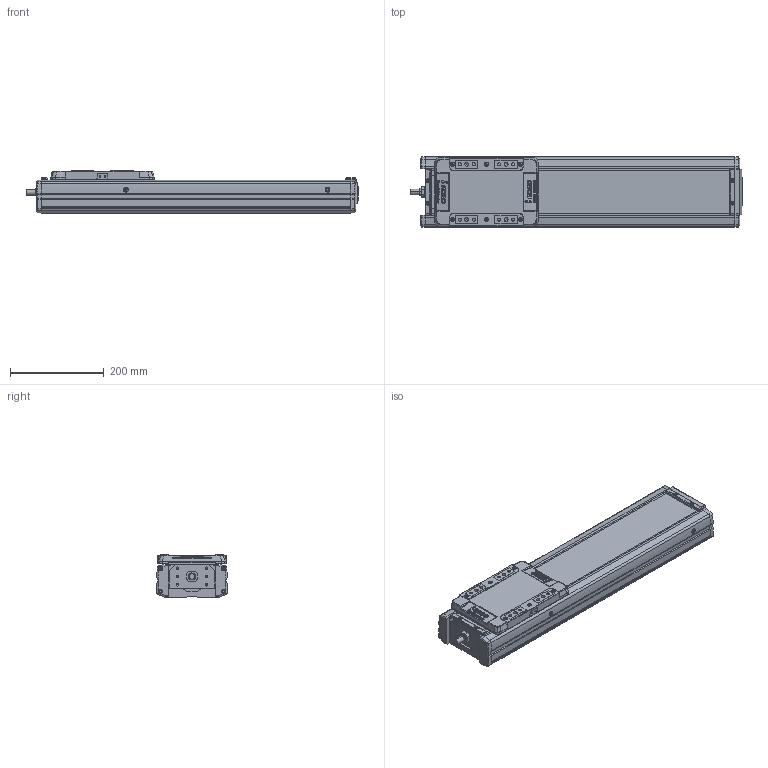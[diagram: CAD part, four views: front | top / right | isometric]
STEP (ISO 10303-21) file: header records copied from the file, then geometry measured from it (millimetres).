
FILE_DESCRIPTION(('STEP AP214'),'1');
FILE_NAME('Z:/Web/3D/SAN150/2013.04 (STP.)/SAN150ㅁㅁ-400.stp','2013-05-07T23:35:27',(' '),(' '),'Spatial InterOp 3D',' ',' ');
FILE_SCHEMA(('automotive_design'));
Length unit declared in the file: millimetre
Products named in the file (35): SLBL-SAN150; SLCV-SAN150; FHCS M4.0 x 8.0; BHCS M4.0 x 10.0; SFX-SAN150; RRCV-SAN150; FRBL-SAN150; Spacer; RN15; FRCV-SAN150; Screw 20; BASE-SAN150-000L ; SUS COVER; 스크루 : Round - M5.0 x 6.0
Bounding box: 708 x 150 x 90 mm (x, y, z)
Volume: 4119899.3 mm3; surface area: 772038.6 mm2
Topology: 35 solids, 35 shells, 2003 faces, 5166 edges, 3299 vertices
Faces by surface type: plane 983, cylinder 713, cone 226, sphere 48, bspline 21, torus 12
Entity records: 79529 total; most frequent: CARTESIAN_POINT 12981, DIRECTION 10906, ORIENTED_EDGE 10132, EDGE_CURVE 5066, AXIS2_PLACEMENT_3D 3899, VERTEX_POINT 3299, LINE 3108, VECTOR 3108
